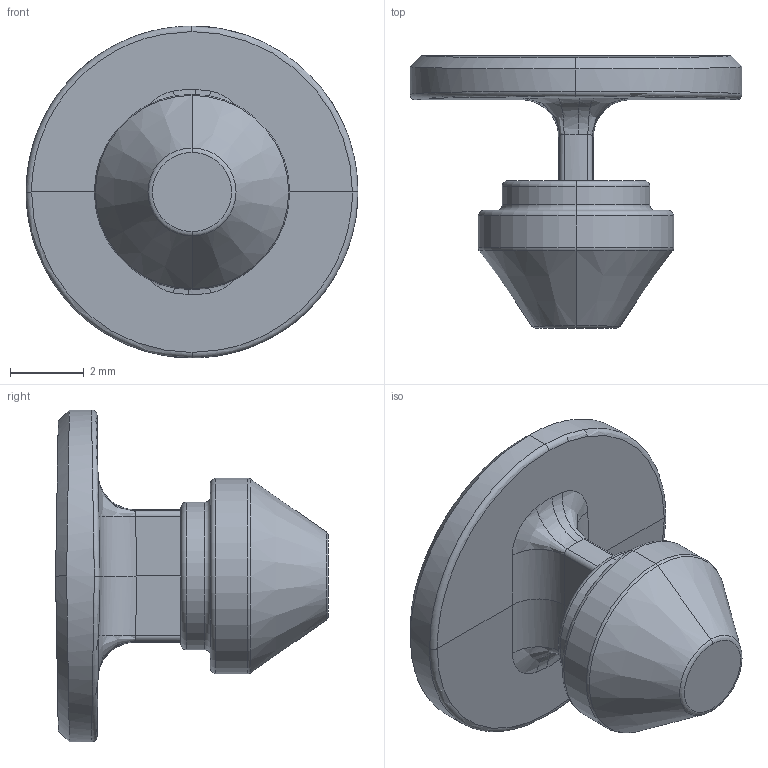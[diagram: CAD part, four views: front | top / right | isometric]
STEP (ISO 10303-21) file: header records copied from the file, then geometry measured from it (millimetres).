
FILE_DESCRIPTION((''),'2;1');
FILE_NAME('16206631_ACL-CLIP_LLE24','2015-01-20T',('bernhard.fink'),(''),'PRO/ENGINEER BY PARAMETRIC TECHNOLOGY CORPORATION, 2014000','PRO/ENGINEER BY PARAMETRIC TECHNOLOGY CORPORATION, 2014000','');
FILE_SCHEMA(('AUTOMOTIVE_DESIGN { 1 0 10303 214 1 1 1 1 }'));
Length unit declared in the file: millimetre
Products named in the file (1): 16206631_ACL-CLIP_LLE24
Bounding box: 9 x 7.4 x 9 mm (x, y, z)
Volume: 139 mm3; surface area: 243.3 mm2
Topology: 1 solids, 1 shells, 56 faces, 125 edges, 73 vertices
Faces by surface type: cylinder 17, torus 14, bspline 12, plane 11, cone 2
Entity records: 3275 total; most frequent: CARTESIAN_POINT 983, ORIENTED_EDGE 250, DIRECTION 210, PRESENTATION_STYLE_ASSIGNMENT 182, STYLED_ITEM 126, CURVE_STYLE 125, EDGE_CURVE 125, AXIS2_PLACEMENT_3D 87
